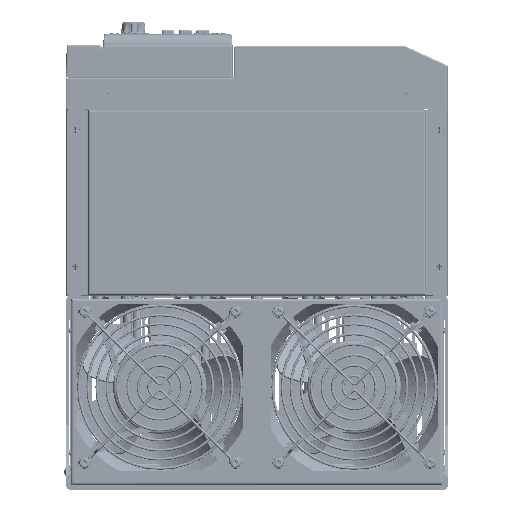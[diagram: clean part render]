
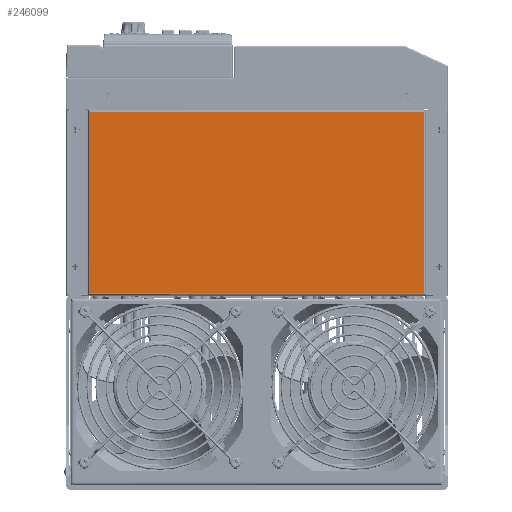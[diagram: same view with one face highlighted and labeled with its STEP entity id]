
A CAD part, front view. The second image highlights one B-rep face of the part: STEP entity #246099.
In plain terms, the highlighted planar face has unit normal (0, -1, 0).
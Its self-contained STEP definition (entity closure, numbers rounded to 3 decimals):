
#234723=DIRECTION('',(0.,0.,-1.));
#234724=VECTOR('',#234723,231.6);
#234725=CARTESIAN_POINT('',(-63.05,0.,115.8));
#234726=LINE('',#234725,#234724);
#234747=DIRECTION('',(-1.,0.,0.));
#234748=VECTOR('',#234747,126.1);
#234749=CARTESIAN_POINT('',(63.05,0.,115.8));
#234750=LINE('',#234749,#234748);
#236661=DIRECTION('',(1.,0.,0.));
#236662=VECTOR('',#236661,126.1);
#236663=CARTESIAN_POINT('',(-63.05,0.,-115.8));
#236664=LINE('',#236663,#236662);
#237333=DIRECTION('',(0.,0.,1.));
#237334=VECTOR('',#237333,231.6);
#237335=CARTESIAN_POINT('',(63.05,0.,-115.8));
#237336=LINE('',#237335,#237334);
#242740=CARTESIAN_POINT('',(-63.05,0.,115.8));
#242741=VERTEX_POINT('',#242740);
#242751=CARTESIAN_POINT('',(-63.05,0.,-115.8));
#242752=VERTEX_POINT('',#242751);
#242754=CARTESIAN_POINT('',(63.05,0.,115.8));
#242755=VERTEX_POINT('',#242754);
#242756=CARTESIAN_POINT('',(63.05,0.,-115.8));
#242757=VERTEX_POINT('',#242756);
#246085=CARTESIAN_POINT('',(-64.25,0.,117.));
#246086=DIRECTION('',(0.,-1.,0.));
#246087=DIRECTION('',(0.,0.,-1.));
#246088=AXIS2_PLACEMENT_3D('',#246085,#246086,#246087);
#246089=PLANE('',#246088);
#246090=ORIENTED_EDGE('',*,*,#246079,.F.);
#246092=ORIENTED_EDGE('',*,*,#246091,.F.);
#246094=ORIENTED_EDGE('',*,*,#246093,.F.);
#246096=ORIENTED_EDGE('',*,*,#246095,.F.);
#246097=EDGE_LOOP('',(#246090,#246092,#246094,#246096));
#246098=FACE_OUTER_BOUND('',#246097,.F.);
#246099=ADVANCED_FACE('',(#246098),#246089,.T.);
#246079=EDGE_CURVE('',#242741,#242752,#234726,.T.);
#246091=EDGE_CURVE('',#242755,#242741,#234750,.T.);
#246093=EDGE_CURVE('',#242757,#242755,#237336,.T.);
#246095=EDGE_CURVE('',#242752,#242757,#236664,.T.);
